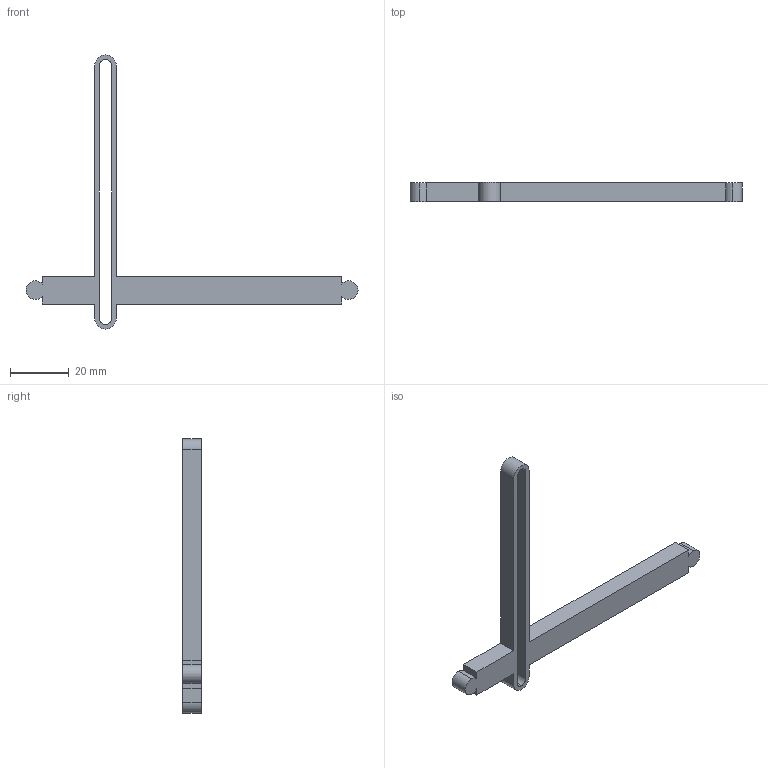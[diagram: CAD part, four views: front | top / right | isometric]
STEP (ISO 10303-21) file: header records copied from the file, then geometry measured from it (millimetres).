
FILE_DESCRIPTION (( 'STEP AP214' ), '1' );
FILE_NAME ('5 - Sin-Cos Slider.STEP', '2022-11-25T05:44:31', ( '' ), ( '' ), 'SwSTEP 2.0', 'SolidWorks 2021', '' );
FILE_SCHEMA (( 'AUTOMOTIVE_DESIGN' ));
Length unit declared in the file: inch
Products named in the file (1): 5 - Sin-Cos Slider
Bounding box: 112.71 x 6.35 x 93.09 mm (x, y, z)
Volume: 7984.1 mm3; surface area: 6261.2 mm2
Topology: 1 solids, 1 shells, 28 faces, 78 edges, 52 vertices
Faces by surface type: plane 16, cylinder 12
Entity records: 950 total; most frequent: DIRECTION 160, CARTESIAN_POINT 159, ORIENTED_EDGE 156, EDGE_CURVE 78, VECTOR 54, LINE 54, AXIS2_PLACEMENT_3D 53, VERTEX_POINT 52
